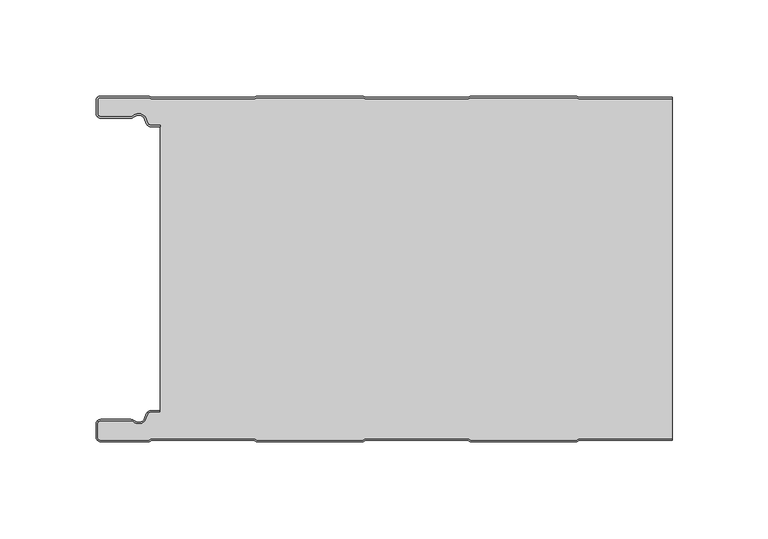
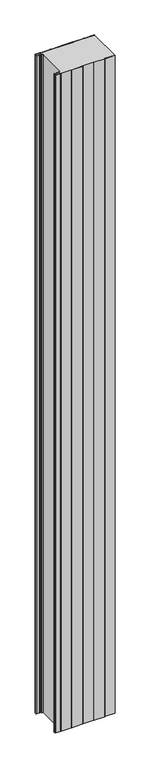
"""IFC4 building model written with IfcOpenShell, lengths in millimetres: plate geometry, ACH_Panel-Frigorífico_PUR-PIR : ACH_Panel-Frigorífico-PIR_180mm."""

from ifc_helpers import new_model, si_unit, point, frame_2d, origin, origin_with_axes, place, context, project, spatial, polyline, circle_curve, trimmed, segment, composite_curve, outline, extrude, source, transform, mapped, element, save


def plate_a9801651(model_context):
    return source(origin(), model_context, "Body", "SweptSolid", [
        extrude(outline(composite_curve([segment(trimmed(circle_curve(frame_2d((-147.49499, -9.0180361)), 2.50501), [point((-147.49499, -11.5230461))], [point((-150.0, -9.0180361))], False, "CARTESIAN"), True, "CONTINUOUS"), segment(polyline([(-150.0, -9.0180361), (-150.0, -2.50501)]), True, "CONTINUOUS"), segment(trimmed(circle_curve(frame_2d((-147.49499, -2.50501)), 2.50501), [point((-150.0, -2.50501))], [point((-147.49499, 0.0))], False, "CARTESIAN"), True, "CONTINUOUS"), segment(polyline([(-147.49499, 0.0), (-122.2103007, 0.0), (-121.028188, -0.6012024), (-67.6391467, -0.6012024), (-66.457034, 0.0), (-10.8776353, 0.0), (-9.6955227, -0.6012024), (43.6935186, -0.6012024), (44.8756313, 0.0), (100.45503, 0.0), (101.6371427, -0.6012024), (150.0, -0.6012024), (150.0, -1.4012024), (101.4453963, -1.4012024), (100.2632836, -0.8), (45.0673777, -0.8), (43.885265, -1.4012024), (-9.887269, -1.4012024), (-11.0693817, -0.8), (-66.2652876, -0.8), (-67.4474003, -1.4012024), (-121.2199344, -1.4012024), (-122.4020471, -0.8), (-147.49499, -0.8)]), True, "CONTINUOUS"), segment(trimmed(circle_curve(frame_2d((-147.49499, -2.50501)), 1.70501), [point((-147.49499, -0.8))], [point((-149.2, -2.50501))], True, "CARTESIAN"), True, "CONTINUOUS"), segment(polyline([(-149.2, -2.50501), (-149.2, -9.0180361)]), True, "CONTINUOUS"), segment(trimmed(circle_curve(frame_2d((-147.49499, -9.0180361)), 1.70501), [point((-149.2, -9.0180361))], [point((-147.49499, -10.7230461))], True, "CARTESIAN"), True, "CONTINUOUS"), segment(polyline([(-147.49499, -10.7230461), (-131.8173283, -10.7230461)]), True, "CONTINUOUS"), segment(trimmed(circle_curve(frame_2d((-131.8173283, -9.0180361)), 1.70501), [point((-131.8173283, -10.7230461))], [point((-130.6895701, -10.2967936))], True, "CARTESIAN"), True, "CONTINUOUS"), segment(trimmed(circle_curve(frame_2d((-127.8407481, -13.5270541)), 4.307014), [point((-130.6895701, -10.2967936))], [point((-123.7934788, -12.0539686))], False, "CARTESIAN"), True, "CONTINUOUS"), segment(polyline([(-123.7934788, -12.0539686), (-123.0450711, -14.1102019)]), True, "CONTINUOUS"), segment(trimmed(circle_curve(frame_2d((-121.4428858, -13.5270541)), 1.70501), [point((-123.0450711, -14.1102019))], [point((-121.4428858, -15.2320641))], True, "CARTESIAN"), True, "CONTINUOUS"), segment(polyline([(-121.4428858, -15.2320641), (-116.4328657, -15.2320641), (-116.4328657, -16.0320641), (-121.4428858, -16.0320641)]), True, "CONTINUOUS"), segment(trimmed(circle_curve(frame_2d((-121.4428858, -13.5270541)), 2.50501), [point((-121.4428858, -16.0320641))], [point((-123.7968252, -14.383818))], False, "CARTESIAN"), True, "CONTINUOUS"), segment(polyline([(-123.7968252, -14.383818), (-124.5452329, -12.3275847)]), True, "CONTINUOUS"), segment(trimmed(circle_curve(frame_2d((-127.8407481, -13.5270541)), 3.507014), [point((-124.5452329, -12.3275847))], [point((-130.1604199, -10.8967936))], True, "CARTESIAN"), True, "CONTINUOUS"), segment(trimmed(circle_curve(frame_2d((-131.8173283, -9.0180361)), 2.50501), [point((-130.1604199, -10.8967936))], [point((-131.8173283, -11.5230461))], False, "CARTESIAN"), True, "CONTINUOUS"), segment(polyline([(-131.8173283, -11.5230461), (-147.49499, -11.5230461)]), True, "CONTINUOUS")], self_intersect=False)), origin_with_axes(), (0.0, 0.0, 1.0), 3500.0),
        extrude(outline(composite_curve([segment(trimmed(circle_curve(frame_2d((-121.4428858, -13.5270541)), 1.70501), [point((-121.4428858, -15.2320641))], [point((-123.0450711, -14.1102019))], False, "CARTESIAN"), True, "CONTINUOUS"), segment(polyline([(-123.0450711, -14.1102019), (-123.7934788, -12.0539686)]), True, "CONTINUOUS"), segment(trimmed(circle_curve(frame_2d((-127.8407481, -13.5270541)), 4.307014), [point((-123.7934788, -12.0539686))], [point((-130.6895701, -10.2967936))], True, "CARTESIAN"), True, "CONTINUOUS"), segment(trimmed(circle_curve(frame_2d((-131.8173283, -9.0180361)), 1.70501), [point((-130.6895701, -10.2967936))], [point((-131.8173283, -10.7230461))], False, "CARTESIAN"), True, "CONTINUOUS"), segment(polyline([(-131.8173283, -10.7230461), (-147.49499, -10.7230461)]), True, "CONTINUOUS"), segment(trimmed(circle_curve(frame_2d((-147.49499, -9.0180361)), 1.70501), [point((-147.49499, -10.7230461))], [point((-149.2, -9.0180361))], False, "CARTESIAN"), True, "CONTINUOUS"), segment(polyline([(-149.2, -9.0180361), (-149.2, -2.50501)]), True, "CONTINUOUS"), segment(trimmed(circle_curve(frame_2d((-147.49499, -2.50501)), 1.70501), [point((-149.2, -2.50501))], [point((-147.49499, -0.8))], False, "CARTESIAN"), True, "CONTINUOUS"), segment(polyline([(-147.49499, -0.8), (-122.4020471, -0.8), (-121.2199344, -1.4012024), (-67.4474003, -1.4012024), (-66.2652876, -0.8), (-11.0693817, -0.8), (-9.887269, -1.4012024), (43.885265, -1.4012024), (45.0673777, -0.8), (100.2632836, -0.8), (101.4453963, -1.4012024), (150.0, -1.4012024), (150.0, -178.5987976), (101.4453963, -178.5987976), (100.2632836, -179.2), (45.0673777, -179.2), (43.885265, -178.5987976), (-9.887269, -178.5987976), (-11.0693817, -179.2), (-66.2652876, -179.2), (-67.4474003, -178.5987976), (-121.2199344, -178.5987976), (-122.4020471, -179.2), (-147.49499, -179.2)]), True, "CONTINUOUS"), segment(trimmed(circle_curve(frame_2d((-147.49499, -177.49499)), 1.70501), [point((-147.49499, -179.2))], [point((-149.2, -177.49499))], False, "CARTESIAN"), True, "CONTINUOUS"), segment(polyline([(-149.2, -177.49499), (-149.2, -170.9819639)]), True, "CONTINUOUS"), segment(trimmed(circle_curve(frame_2d((-147.49499, -170.9819639)), 1.70501), [point((-149.2, -170.9819639))], [point((-147.49499, -169.2769539))], False, "CARTESIAN"), True, "CONTINUOUS"), segment(polyline([(-147.49499, -169.2769539), (-131.8173283, -169.2769539)]), True, "CONTINUOUS"), segment(trimmed(circle_curve(frame_2d((-131.8173283, -170.9819639)), 1.70501), [point((-131.8173283, -169.2769539))], [point((-130.6895701, -169.7032064))], False, "CARTESIAN"), True, "CONTINUOUS"), segment(trimmed(circle_curve(frame_2d((-127.8407481, -166.4729459)), 4.307014), [point((-130.6895701, -169.7032064))], [point((-123.7934788, -167.9460314))], True, "CARTESIAN"), True, "CONTINUOUS"), segment(polyline([(-123.7934788, -167.9460314), (-123.0450711, -165.8897981)]), True, "CONTINUOUS"), segment(trimmed(circle_curve(frame_2d((-121.4428858, -166.4729459)), 1.70501), [point((-123.0450711, -165.8897981))], [point((-121.4428858, -164.7679359))], False, "CARTESIAN"), True, "CONTINUOUS"), segment(polyline([(-121.4428858, -164.7679359), (-116.4328657, -164.7679359), (-116.4328657, -15.2320641), (-121.4428858, -15.2320641)]), True, "CONTINUOUS")], self_intersect=False)), origin_with_axes(), (0.0, 0.0, 1.0), 3500.0),
        extrude(outline(composite_curve([segment(polyline([(-147.49499, -168.4769539), (-131.8173283, -168.4769539)]), True, "CONTINUOUS"), segment(trimmed(circle_curve(frame_2d((-131.8173283, -170.9819639)), 2.50501), [point((-131.8173283, -168.4769539))], [point((-130.1604199, -169.1032064))], False, "CARTESIAN"), True, "CONTINUOUS"), segment(trimmed(circle_curve(frame_2d((-127.8407481, -166.4729459)), 3.507014), [point((-130.1604199, -169.1032064))], [point((-124.5452329, -167.6724153))], True, "CARTESIAN"), True, "CONTINUOUS"), segment(polyline([(-124.5452329, -167.6724153), (-123.7968252, -165.616182)]), True, "CONTINUOUS"), segment(trimmed(circle_curve(frame_2d((-121.4428858, -166.4729459)), 2.50501), [point((-123.7968252, -165.616182))], [point((-121.4428858, -163.9679359))], False, "CARTESIAN"), True, "CONTINUOUS"), segment(polyline([(-121.4428858, -163.9679359), (-116.4328657, -163.9679359), (-116.4328657, -164.7679359), (-121.4428858, -164.7679359)]), True, "CONTINUOUS"), segment(trimmed(circle_curve(frame_2d((-121.4428858, -166.4729459)), 1.70501), [point((-121.4428858, -164.7679359))], [point((-123.0450711, -165.8897981))], True, "CARTESIAN"), True, "CONTINUOUS"), segment(polyline([(-123.0450711, -165.8897981), (-123.7934788, -167.9460314)]), True, "CONTINUOUS"), segment(trimmed(circle_curve(frame_2d((-127.8407481, -166.4729459)), 4.307014), [point((-123.7934788, -167.9460314))], [point((-130.6895701, -169.7032064))], False, "CARTESIAN"), True, "CONTINUOUS"), segment(trimmed(circle_curve(frame_2d((-131.8173283, -170.9819639)), 1.70501), [point((-130.6895701, -169.7032064))], [point((-131.8173283, -169.2769539))], True, "CARTESIAN"), True, "CONTINUOUS"), segment(polyline([(-131.8173283, -169.2769539), (-147.49499, -169.2769539)]), True, "CONTINUOUS"), segment(trimmed(circle_curve(frame_2d((-147.49499, -170.9819639)), 1.70501), [point((-147.49499, -169.2769539))], [point((-149.2, -170.9819639))], True, "CARTESIAN"), True, "CONTINUOUS"), segment(polyline([(-149.2, -170.9819639), (-149.2, -177.49499)]), True, "CONTINUOUS"), segment(trimmed(circle_curve(frame_2d((-147.49499, -177.49499)), 1.70501), [point((-149.2, -177.49499))], [point((-147.49499, -179.2))], True, "CARTESIAN"), True, "CONTINUOUS"), segment(polyline([(-147.49499, -179.2), (-122.4020471, -179.2), (-121.2199344, -178.5987976), (-67.4474003, -178.5987976), (-66.2652876, -179.2), (-11.0693817, -179.2), (-9.887269, -178.5987976), (43.885265, -178.5987976), (45.0673777, -179.2), (100.2632836, -179.2), (101.4453963, -178.5987976), (150.0, -178.5987976), (150.0, -179.3987976), (101.6371427, -179.3987976), (100.45503, -180.0), (44.8756313, -180.0), (43.6935186, -179.3987976), (-9.6955227, -179.3987976), (-10.8776353, -180.0), (-66.457034, -180.0), (-67.6391467, -179.3987976), (-121.028188, -179.3987976), (-122.2103007, -180.0), (-147.49499, -180.0)]), True, "CONTINUOUS"), segment(trimmed(circle_curve(frame_2d((-147.49499, -177.49499)), 2.50501), [point((-147.49499, -180.0))], [point((-150.0, -177.49499))], False, "CARTESIAN"), True, "CONTINUOUS"), segment(polyline([(-150.0, -177.49499), (-150.0, -170.9819639)]), True, "CONTINUOUS"), segment(trimmed(circle_curve(frame_2d((-147.49499, -170.9819639)), 2.50501), [point((-150.0, -170.9819639))], [point((-147.49499, -168.4769539))], False, "CARTESIAN"), True, "CONTINUOUS")], self_intersect=False)), origin_with_axes(), (0.0, 0.0, 1.0), 3500.0),
    ])


if __name__ == "__main__":
    model = new_model("IFC4")
    model_context = context("Model", 3, world=origin())
    ifc_project = project(units=[si_unit("LENGTHUNIT", "METRE", prefix="MILLI")], contexts=[model_context])
    site = spatial("IfcSite", under=ifc_project)
    building = spatial("IfcBuilding", under=site)
    placement = place(None, origin())
    plate_shape = plate_a9801651(model_context)
    element("IfcPlate", 1, ObjectType="ACH_Panel-Frigorífico_PUR-PIR : ACH_Panel-Frigorífico-PIR_180mm", at=placement, inside=building, context=model_context, shape_type="MappedRepresentation", body=[
        mapped(plate_shape, transform((0.0, 0.0, 0.0), x_axis=(1.0, 0.0, 0.0), y_axis=(0.0, 1.0, 0.0), z_axis=(0.0, 0.0, 1.0))),
    ])
    save(model, "model.ifc")
